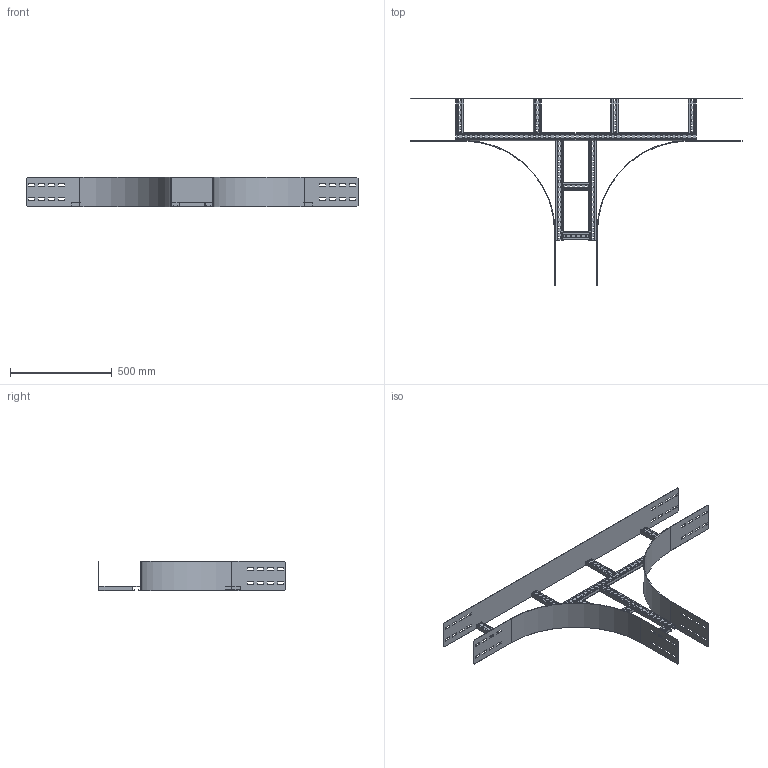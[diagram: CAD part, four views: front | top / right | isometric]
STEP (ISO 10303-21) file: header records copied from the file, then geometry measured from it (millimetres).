
FILE_DESCRIPTION(('Creo Elements/Direct Modeling STEP Export'),'2;1');
FILE_NAME('WPTP15-20-45.stp','2016-06-03T 8:38:09',(''),(''),'PTC Creo Elements/Direct Modeling STEP processor for AP214 (Solid Model)','PTC Creo Elements/Direct Modeling 19.0C 15-Aug-2015 (C) Parametric Technology GmbH','');
FILE_SCHEMA(('AUTOMOTIVE_DESIGN { 1 0 10303 214 1 1 1 1 }'));
Length unit declared in the file: millimetre
Products named in the file (7): WPTPS20.1.1.1; WPBI_150.1; WPKSP2_300.1; WPKS20; WPKSP1-20; WPAAG_150-20; WPTP15-20-45
Assembly tree (12 placements, depth 2):
  WPTP15-20-45
    WPAAG_150-20
    WPTPS20.1.1.1  x4
    WPKSP1-20
    WPKSP2_300.1  x2
    WPBI_150.1  x2
    WPKS20  x2
Bounding box: 1635 x 923 x 145 mm (x, y, z)
Volume: 2186837 mm3; surface area: 1819444.5 mm2
Topology: 12 solids, 12 shells, 1106 faces, 3246 edges, 2164 vertices
Faces by surface type: plane 676, cylinder 430
Entity records: 21785 total; most frequent: CARTESIAN_POINT 3749, ORIENTED_EDGE 3744, DIRECTION 3616, EDGE_CURVE 1872, VECTOR 1386, LINE 1386, VERTEX_POINT 1248, AXIS2_PLACEMENT_3D 1115
